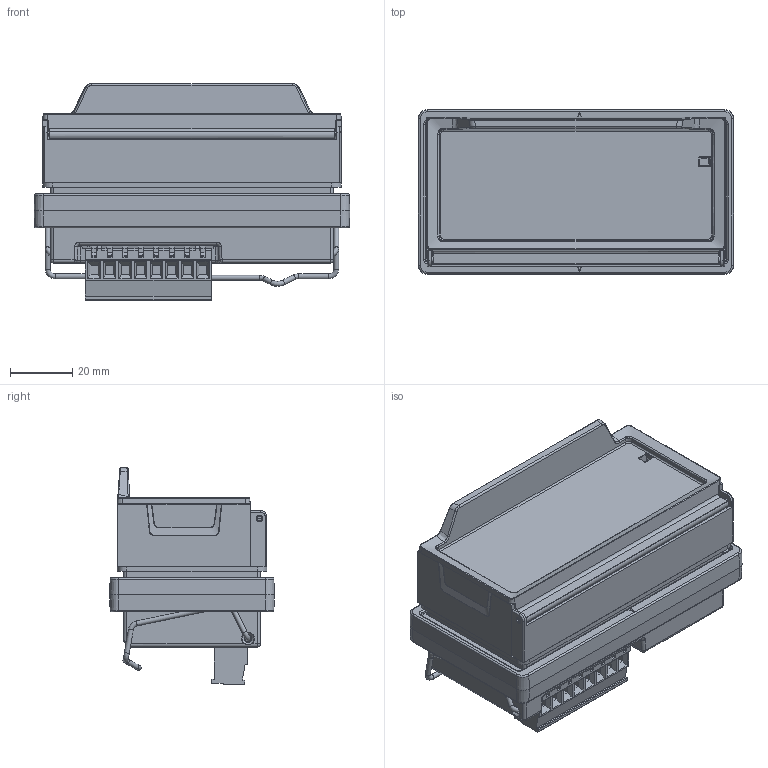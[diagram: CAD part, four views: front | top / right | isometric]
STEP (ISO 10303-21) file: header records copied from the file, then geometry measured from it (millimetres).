
FILE_DESCRIPTION (( 'STEP AP214' ), '1' );
FILE_NAME ('DiggiMEC-A with Hatch.STEP', '2024-08-30T15:23:41', ( '' ), ( '' ), 'SwSTEP 2.0', 'SolidWorks 2023', '' );
FILE_SCHEMA (( 'AUTOMOTIVE_DESIGN' ));
Length unit declared in the file: millimetre
Products named in the file (1): DiggiMEC-A with Hatch
Bounding box: 101.5 x 53 x 69.5 mm (x, y, z)
Surface area: 104557.3 mm2 (no closed solid volume)
Topology: 0 solids, 65 shells, 6108 faces, 16376 edges, 10513 vertices
Faces by surface type: plane 3739, cylinder 1328, bspline 686, cone 167, torus 130, sphere 58
Full cylindrical faces by diameter (mm): 0.217 x1, 0.45 x2, 0.7 x6, 0.94 x2, 1 x1, 1.1 x3, 1.14 x1, 1.45 x8, 1.5 x9, 1.52 x1, 1.6 x15, 2 x5, 2.03 x2, 2.76 x8, 3.5 x4, 3.7 x8, 3.85 x8, 4 x8
Entity records: 271440 total; most frequent: CARTESIAN_POINT 61639, ORIENTED_EDGE 31936, DIRECTION 26559, EDGE_CURVE 16001, LINE 10945, VECTOR 10945, VERTEX_POINT 10417, AXIS2_PLACEMENT_3D 7807
